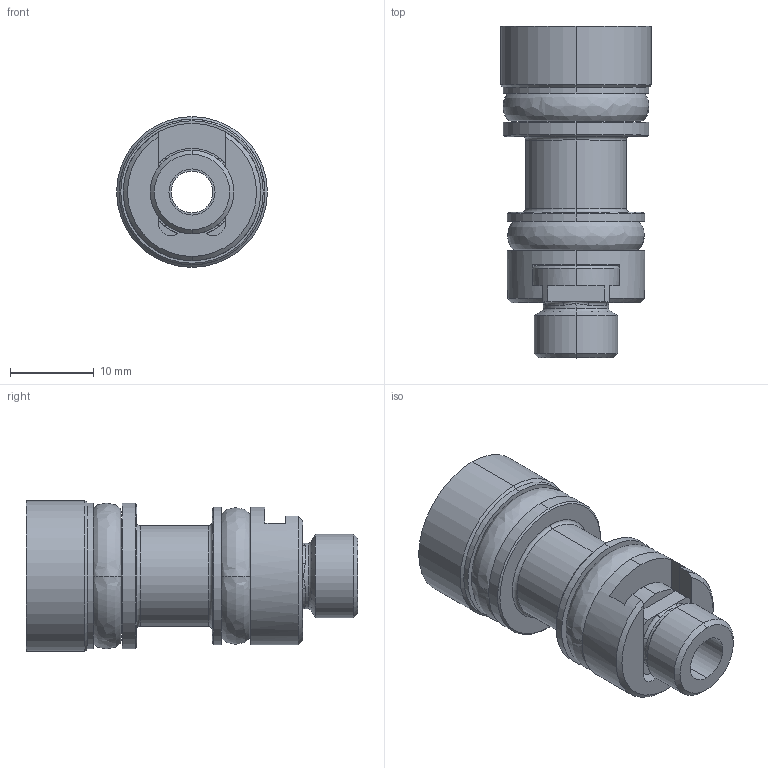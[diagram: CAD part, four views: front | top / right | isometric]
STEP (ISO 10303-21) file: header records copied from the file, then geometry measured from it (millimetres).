
FILE_DESCRIPTION (( 'STEP AP203' ), '1' );
FILE_NAME ('SCR-18.STEP', '2013-02-20T16:12:40', ( ' ' ), ( ' ' ), 'SwSTEP 2.0', 'SolidWorks 2011', '' );
FILE_SCHEMA (( 'CONFIG_CONTROL_DESIGN' ));
Length unit declared in the file: millimetre
Products named in the file (5): CORPO_V1-COOL; SCR18-ORING1; SCR-18; SCR18-ORING2; SI-VITE
Assembly tree (4 placements, depth 2):
  SCR-18
    SI-VITE
    SCR18-ORING2
    SCR18-ORING1
    CORPO_V1-COOL
Bounding box: 18 x 39.6 x 18 mm (x, y, z)
Volume: 5851.8 mm3; surface area: 4636.7 mm2
Topology: 4 solids, 4 shells, 118 faces, 265 edges, 157 vertices
Faces by surface type: plane 45, cylinder 29, torus 18, cone 14, bspline 12
Entity records: 4080 total; most frequent: CARTESIAN_POINT 899, DIRECTION 615, ORIENTED_EDGE 530, EDGE_CURVE 265, AXIS2_PLACEMENT_3D 253, VERTEX_POINT 157, CIRCLE 140, EDGE_LOOP 128
